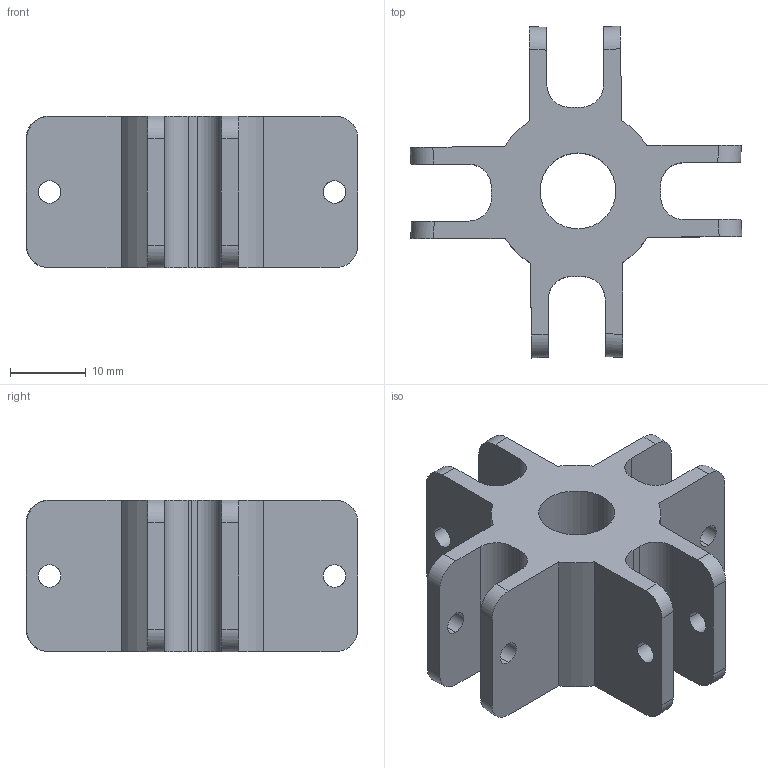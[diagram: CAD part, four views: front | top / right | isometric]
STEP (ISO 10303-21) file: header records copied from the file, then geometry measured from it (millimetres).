
FILE_DESCRIPTION (( 'STEP AP203' ), '1' );
FILE_NAME ('Part3-end effector_Default_sldprt.STEP', '2025-01-16T15:44:44', ( '' ), ( '' ), 'SwSTEP 2.0', 'SolidWorks 2020', '' );
FILE_SCHEMA (( 'CONFIG_CONTROL_DESIGN' ));
Length unit declared in the file: millimetre
Products named in the file (1): Part3-end effector_Default_sldprt
Bounding box: 43.72 x 43.72 x 20 mm (x, y, z)
Volume: 10769.5 mm3; surface area: 6479.3 mm2
Topology: 1 solids, 1 shells, 80 faces, 234 edges, 156 vertices
Faces by surface type: cylinder 54, plane 26
Entity records: 2763 total; most frequent: CARTESIAN_POINT 639, ORIENTED_EDGE 468, DIRECTION 392, EDGE_CURVE 234, VERTEX_POINT 156, AXIS2_PLACEMENT_3D 133, LINE 126, VECTOR 126
